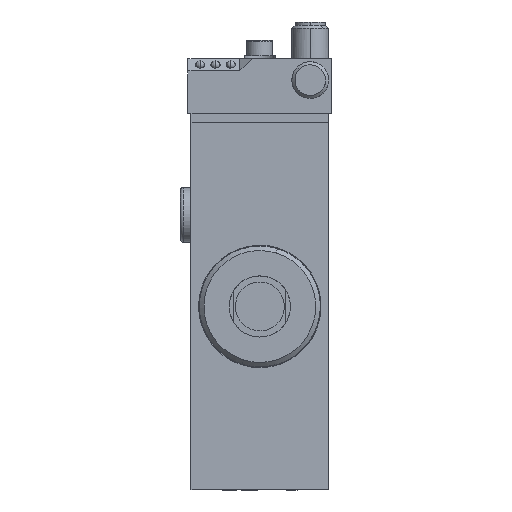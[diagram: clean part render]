
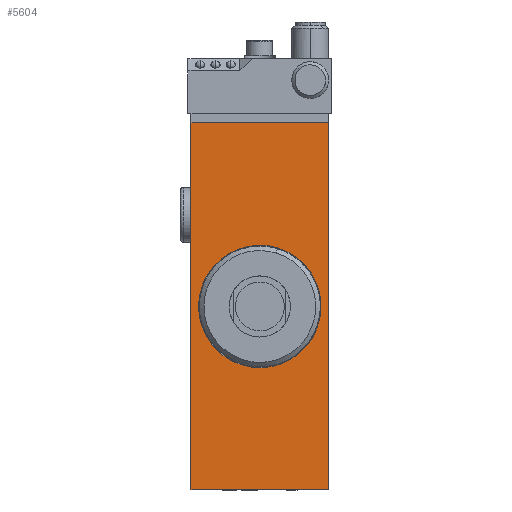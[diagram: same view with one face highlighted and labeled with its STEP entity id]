
A CAD part, left-side view. The second image highlights one B-rep face of the part: STEP entity #5604.
In plain terms, the highlighted free-form (B-spline) face has degree [1, 1] with [2, 2] control points.
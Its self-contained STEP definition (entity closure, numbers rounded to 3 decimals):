
#4894=CARTESIAN_POINT('Vertex',(-209.,0.,20.)) ;
#4909=CARTESIAN_POINT('Vertex',(-209.,0.,-20.)) ;
#4913=CARTESIAN_POINT('Control Point',(-209.,0.,20.)) ;
#4914=CARTESIAN_POINT('Control Point',(-209.,-20.,20.)) ;
#4915=CARTESIAN_POINT('Control Point',(-209.,-20.,0.)) ;
#4916=CARTESIAN_POINT('Control Point',(-209.,-20.,-20.)) ;
#4917=CARTESIAN_POINT('Control Point',(-209.,0.,-20.)) ;
#5006=CARTESIAN_POINT('Control Point',(-209.,-22.5,-60.)) ;
#5007=CARTESIAN_POINT('Control Point',(-209.,22.5,-60.)) ;
#5008=CARTESIAN_POINT('Vertex',(-209.,-22.5,-60.)) ;
#5010=CARTESIAN_POINT('Vertex',(-209.,22.5,-60.)) ;
#5079=CARTESIAN_POINT('Control Point',(-209.,0.,-20.)) ;
#5080=CARTESIAN_POINT('Control Point',(-209.,20.,-20.)) ;
#5081=CARTESIAN_POINT('Control Point',(-209.,20.,0.)) ;
#5082=CARTESIAN_POINT('Control Point',(-209.,20.,20.)) ;
#5083=CARTESIAN_POINT('Control Point',(-209.,0.,20.)) ;
#5498=CARTESIAN_POINT('Control Point',(-209.,-22.5,60.)) ;
#5499=CARTESIAN_POINT('Control Point',(-209.,-22.5,-60.)) ;
#5500=CARTESIAN_POINT('Vertex',(-209.,-22.5,60.)) ;
#5533=CARTESIAN_POINT('Control Point',(-209.,22.5,-60.)) ;
#5534=CARTESIAN_POINT('Control Point',(-209.,22.5,60.)) ;
#5535=CARTESIAN_POINT('Vertex',(-209.,22.5,60.)) ;
#5568=CARTESIAN_POINT('Control Point',(-209.,22.5,60.)) ;
#5569=CARTESIAN_POINT('Control Point',(-209.,-22.5,60.)) ;
#5590=CARTESIAN_POINT('Control Point',(-209.,-22.5,60.)) ;
#5591=CARTESIAN_POINT('Control Point',(-209.,22.5,60.)) ;
#5592=CARTESIAN_POINT('Control Point',(-209.,-22.5,-60.)) ;
#5593=CARTESIAN_POINT('Control Point',(-209.,22.5,-60.)) ;
#5595=ORIENTED_EDGE('',*,*,#5570,.F.) ;
#5596=ORIENTED_EDGE('',*,*,#5537,.F.) ;
#5597=ORIENTED_EDGE('',*,*,#5012,.F.) ;
#5598=ORIENTED_EDGE('',*,*,#5502,.F.) ;
#5601=ORIENTED_EDGE('',*,*,#4918,.T.) ;
#5602=ORIENTED_EDGE('',*,*,#5084,.T.) ;
#5603=FACE_BOUND('',#5600,.T.) ;
#5604=ADVANCED_FACE('_DIT1__DIT4',(#5599,#5603),#5589,.F.) ;
#5005=B_SPLINE_CURVE_WITH_KNOTS('',1,(#5006,#5007),.UNSPECIFIED.,.F.,.U.,(2,2),(0.,4.5),.UNSPECIFIED.) ;
#5497=B_SPLINE_CURVE_WITH_KNOTS('',1,(#5498,#5499),.UNSPECIFIED.,.F.,.U.,(2,2),(0.,12.),.UNSPECIFIED.) ;
#5532=B_SPLINE_CURVE_WITH_KNOTS('',1,(#5533,#5534),.UNSPECIFIED.,.F.,.U.,(2,2),(0.,12.),.UNSPECIFIED.) ;
#5567=B_SPLINE_CURVE_WITH_KNOTS('',1,(#5568,#5569),.UNSPECIFIED.,.F.,.U.,(2,2),(0.,4.5),.UNSPECIFIED.) ;
#5589=B_SPLINE_SURFACE_WITH_KNOTS('',1,1,((#5590,#5591),(#5592,#5593)),.UNSPECIFIED.,.F.,.F.,.U.,(2,2),(2,2),(0.,12.),(0.,4.5),.UNSPECIFIED.) ;
#4918=EDGE_CURVE('',#4895,#4910,#4912,.T.) ;
#5012=EDGE_CURVE('',#5009,#5011,#5005,.T.) ;
#5084=EDGE_CURVE('',#4910,#4895,#5078,.T.) ;
#5502=EDGE_CURVE('',#5501,#5009,#5497,.T.) ;
#5537=EDGE_CURVE('',#5011,#5536,#5532,.T.) ;
#5570=EDGE_CURVE('',#5536,#5501,#5567,.T.) ;
#5594=EDGE_LOOP('',(#5595,#5596,#5597,#5598)) ;
#5600=EDGE_LOOP('',(#5601,#5602)) ;
#5599=FACE_OUTER_BOUND('',#5594,.T.) ;
#4895=VERTEX_POINT('',#4894) ;
#4910=VERTEX_POINT('',#4909) ;
#5009=VERTEX_POINT('',#5008) ;
#5011=VERTEX_POINT('',#5010) ;
#5501=VERTEX_POINT('',#5500) ;
#5536=VERTEX_POINT('',#5535) ;
#4912=(BOUNDED_CURVE()B_SPLINE_CURVE(2,(#4913,#4914,#4915,#4916,#4917),.UNSPECIFIED.,.F.,.U.)B_SPLINE_CURVE_WITH_KNOTS((3,2,3),(-3.142,-1.571,0.),.UNSPECIFIED.)CURVE()GEOMETRIC_REPRESENTATION_ITEM()RATIONAL_B_SPLINE_CURVE((1.,0.707,1.,0.707,1.))REPRESENTATION_ITEM('')) ;
#5078=(BOUNDED_CURVE()B_SPLINE_CURVE(2,(#5079,#5080,#5081,#5082,#5083),.UNSPECIFIED.,.F.,.U.)B_SPLINE_CURVE_WITH_KNOTS((3,2,3),(0.,1.571,3.142),.UNSPECIFIED.)CURVE()GEOMETRIC_REPRESENTATION_ITEM()RATIONAL_B_SPLINE_CURVE((1.,0.707,1.,0.707,1.))REPRESENTATION_ITEM('')) ;
